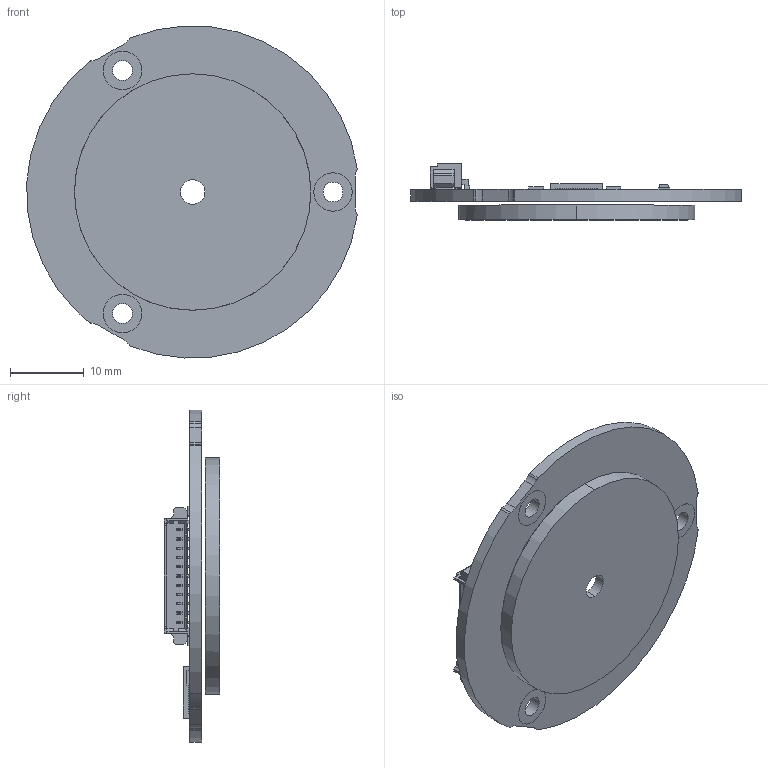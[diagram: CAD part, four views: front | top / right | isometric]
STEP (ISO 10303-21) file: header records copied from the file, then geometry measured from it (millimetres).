
FILE_DESCRIPTION (( 'STEP AP214' ), '1' );
FILE_NAME ('IND-ROT-045-A21-FR_rev01.STEP', '2023-11-03T16:09:33', ( '' ), ( '' ), 'SwSTEP 2.0', 'SolidWorks 2021', '' );
FILE_SCHEMA (( 'AUTOMOTIVE_DESIGN' ));
Length unit declared in the file: millimetre
Products named in the file (1): IND-ROT-045-A21-FR_rev01
Bounding box: 44.74 x 7.58 x 44.94 mm (x, y, z)
Volume: 3888.6 mm3; surface area: 5442.7 mm2
Topology: 17 solids, 17 shells, 1230 faces, 3310 edges, 2190 vertices
Faces by surface type: plane 636, bspline 430, cylinder 164
Entity records: 57258 total; most frequent: CARTESIAN_POINT 14069, ORIENTED_EDGE 6620, DIRECTION 5014, EDGE_CURVE 3310, VECTOR 2744, LINE 2744, VERTEX_POINT 2190, EDGE_LOOP 1316
